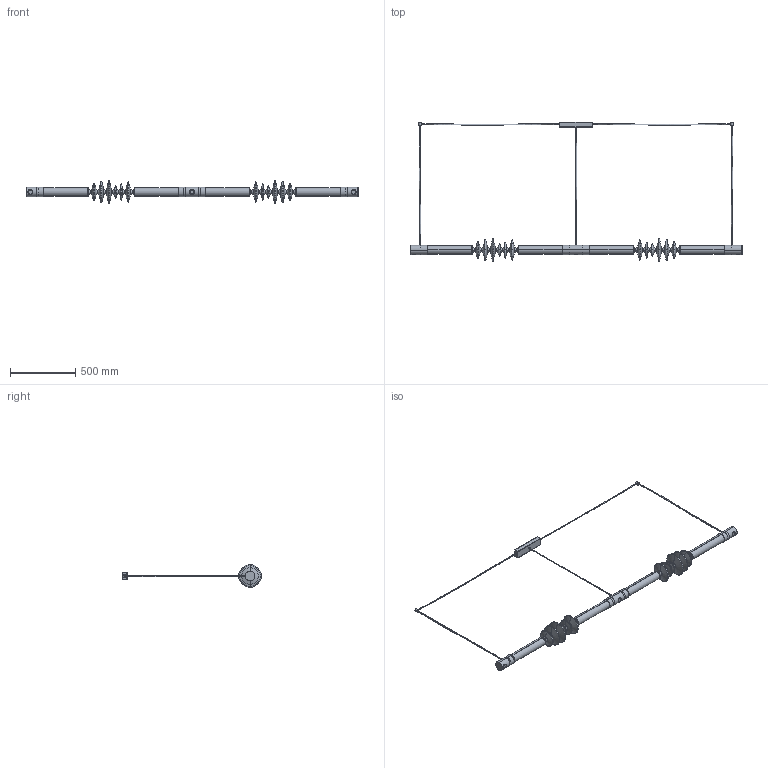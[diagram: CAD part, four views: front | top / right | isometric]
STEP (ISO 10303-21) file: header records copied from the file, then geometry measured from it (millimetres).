
FILE_DESCRIPTION (( 'STEP AP203' ), '1' );
FILE_NAME ('Filamento Horizontal Double, Shape 2+2.STEP', '2026-04-30T09:22:00', ( '' ), ( '' ), 'SwSTEP 2.0', 'SolidWorks 2025', '' );
FILE_SCHEMA (( 'CONFIG_CONTROL_DESIGN' ));
Length unit declared in the file: millimetre
Products named in the file (19): Grano con Cava Esagonale UNI-5923_GRANO M4X6 ESTREMITA'' PIANA UNI-5923; ATC-X21-S590-R00; ATC-X21-S407-R01 - Architetti; Nipplo Steab 5475xx_NIPPLO M10x1 H.7 TRASP.; ATA-X21-S400-R00 - Architetti_Sosp. Doppia; Vite a Testa Svasata Piana Cava Esagonale UNI-5933_VITE M3X8 TSPCE UNI-5933; Filamento Horizontal Double, Shape 2+2; ATC-X21-S411-R00 - Architetti_Default<A macchina>; ATA-X21-S403-R00 - Architetti; ATC-X21-S591-R00; ATC-X21-S502-R00; ATC-X21-S414-R00 - Architetti; Lamp. GU10 Ø35 - PAR11 35 Osram_LAMPADA GU10 50W 220V; Viti a Testa Bombata e Cava Esagonale ISO-7380_VITE M3X12 TBCE ISO-7380 ; ATC-X21-S415-R00; ATA-X21-S500-R00 - Architetti; ATC-X21-S500-R00 - Architetti; ATA-X21-S401-R00 - Architetti_Sosp. Doppia; ATC-X21-S400-R02 - Architetti
Assembly tree (42 placements, depth 4):
  Filamento Horizontal Double, Shape 2+2
    ATA-X21-S401-R00 - Architetti_Sosp. Doppia
      Lamp. GU10 Ø35 - PAR11 35 Osram_LAMPADA GU10 50W 220V  x4
      Vite a Testa Svasata Piana Cava Esagonale UNI-5933_VITE M3X8 TSPCE UNI-5933  x4
      Nipplo Steab 5475xx_NIPPLO M10x1 H.7 TRASP.  x2
      Grano con Cava Esagonale UNI-5923_GRANO M4X6 ESTREMITA'' PIANA UNI-5923  x2
      ATA-X21-S400-R00 - Architetti_Sosp. Doppia
        Viti a Testa Bombata e Cava Esagonale ISO-7380_VITE M3X12 TBCE ISO-7380   x2
        Nipplo Steab 5475xx_NIPPLO M10x1 H.7 TRASP.  x3
        ATC-X21-S414-R00 - Architetti
      ATC-X21-S407-R01 - Architetti  x2
      ATC-X21-S590-R00  x2
      ATC-X21-S400-R02 - Architetti  x2
    ATA-X21-S500-R00 - Architetti
      Lamp. GU10 Ø35 - PAR11 35 Osram_LAMPADA GU10 50W 220V  x3
      Vite a Testa Svasata Piana Cava Esagonale UNI-5933_VITE M3X8 TSPCE UNI-5933  x2
      Grano con Cava Esagonale UNI-5923_GRANO M4X6 ESTREMITA'' PIANA UNI-5923  x2
      ATC-X21-S500-R00 - Architetti
      ATC-X21-S502-R00
      ATC-X21-S591-R00
    ATA-X21-S403-R00 - Architetti  x2
      ATC-X21-S411-R00 - Architetti_Default<A macchina>
      ATC-X21-S415-R00
Bounding box: 2550 x 1068 x 177 mm (x, y, z)
Volume: 3080249.2 mm3; surface area: 1908090.9 mm2
Topology: 41 solids, 41 shells, 1060 faces, 2226 edges, 1312 vertices
Faces by surface type: cylinder 313, plane 274, torus 224, cone 222, bspline 27
Entity records: 21517 total; most frequent: CARTESIAN_POINT 8359, DIRECTION 2402, ORIENTED_EDGE 2030, EDGE_CURVE 1015, AXIS2_PLACEMENT_3D 1006, VERTEX_POINT 599, EDGE_LOOP 538, CIRCLE 505
